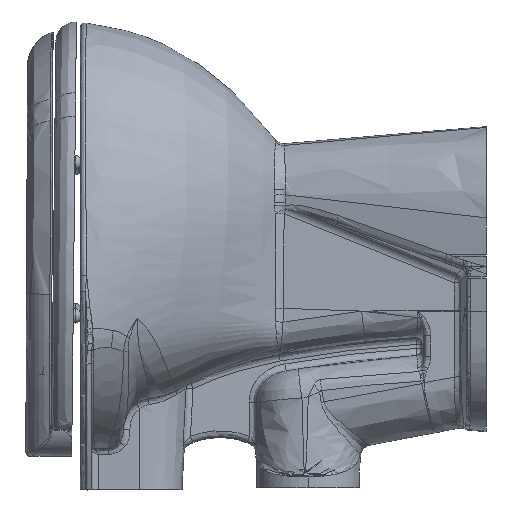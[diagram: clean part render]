
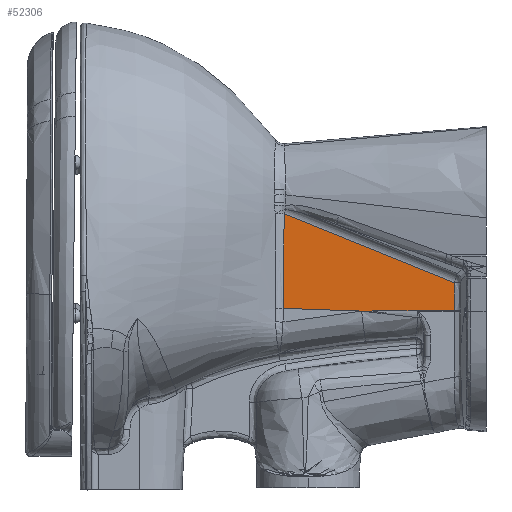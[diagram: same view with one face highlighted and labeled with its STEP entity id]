
A CAD part, left-side view. The second image highlights one B-rep face of the part: STEP entity #52306.
In plain terms, the highlighted planar face has unit normal (-0.999, 0.035, 0.001).
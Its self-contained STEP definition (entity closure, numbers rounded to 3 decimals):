
#68 = ORIENTED_EDGE ( 'NONE', *, *, #14129, .T. ) ;
#630 = CARTESIAN_POINT ( 'NONE',  ( -20.856, -133.012, -51.299 ) ) ;
#661 = ORIENTED_EDGE ( 'NONE', *, *, #41050, .T. ) ;
#817 = CARTESIAN_POINT ( 'NONE',  ( -23.709, -214.616, -54.149 ) ) ;
#2172 = CARTESIAN_POINT ( 'NONE',  ( -23.709, -214.616, -54.149 ) ) ;
#2265 = AXIS2_PLACEMENT_3D ( 'NONE', #630, #40165, #10241 ) ;
#2710 = VERTEX_POINT ( 'NONE', #9644 ) ;
#2777 = VERTEX_POINT ( 'NONE', #26452 ) ;
#6295 = CARTESIAN_POINT ( 'NONE',  ( -23.709, -214.618, -54.149 ) ) ;
#6410 = EDGE_CURVE ( 'NONE', #41692, #2710, #23934, .T. ) ;
#6729 = CARTESIAN_POINT ( 'NONE',  ( -20.976, -138.085, -3.634 ) ) ;
#7578 = CARTESIAN_POINT ( 'NONE',  ( -20.977, -138.072, -4.99 ) ) ;
#8688 = FACE_OUTER_BOUND ( 'NONE', #52009, .T. ) ;
#9318 = CARTESIAN_POINT ( 'NONE',  ( -26.888, -305.673, -53.289 ) ) ;
#9644 = CARTESIAN_POINT ( 'NONE',  ( -21.013, -137.491, -51.456 ) ) ;
#9823 = PLANE ( 'NONE',  #2265 ) ;
#9873 = EDGE_CURVE ( 'NONE', #12681, #42926, #12323, .T. ) ;
#10241 = DIRECTION ( 'NONE',  ( -0.035, -0.999, 0. ) ) ;
#11725 = CARTESIAN_POINT ( 'NONE',  ( -20.977, -138.072, -4.98 ) ) ;
#11948 = CARTESIAN_POINT ( 'NONE',  ( -20.977, -138.075, -4.651 ) ) ;
#12323 = B_SPLINE_CURVE_WITH_KNOTS ( 'NONE', 3,
 ( #51908, #61544, #2172, #56736 ),
 .UNSPECIFIED., .F., .F.,
 ( 4, 4 ),
 ( 0., 0. ),
 .UNSPECIFIED. ) ;
#12365 = CARTESIAN_POINT ( 'NONE',  ( -20.977, -138.072, -4.971 ) ) ;
#12681 = VERTEX_POINT ( 'NONE', #31178 ) ;
#13029 = ORIENTED_EDGE ( 'NONE', *, *, #28603, .T. ) ;
#13275 = CARTESIAN_POINT ( 'NONE',  ( -21.913, -166.062, 30.252 ) ) ;
#14129 = EDGE_CURVE ( 'NONE', #55704, #41692, #51451, .T. ) ;
#17389 = CARTESIAN_POINT ( 'NONE',  ( -20.968, -138.171, 5.419 ) ) ;
#19329 = EDGE_CURVE ( 'NONE', #21438, #55704, #22935, .T. ) ;
#20049 = CARTESIAN_POINT ( 'NONE',  ( -20.938, -138.421, 38.474 ) ) ;
#21438 = VERTEX_POINT ( 'NONE', #9318 ) ;
#21985 = CARTESIAN_POINT ( 'NONE',  ( -20.973, -138.123, 0.343 ) ) ;
#22196 = CARTESIAN_POINT ( 'NONE',  ( -21.013, -137.491, -51.456 ) ) ;
#22639 = CARTESIAN_POINT ( 'NONE',  ( -26.888, -305.673, -53.289 ) ) ;
#22935 = B_SPLINE_CURVE_WITH_KNOTS ( 'NONE', 3,
 ( #64261, #64479, #34573, #45031 ),
 .UNSPECIFIED., .F., .F.,
 ( 4, 4 ),
 ( 0., 0.027 ),
 .UNSPECIFIED. ) ;
#23934 = B_SPLINE_CURVE_WITH_KNOTS ( 'NONE', 3,
 ( #49722, #20049, #36840, #57313, #17389, #21985, #42274, #6729, #41649, #11948, #61911, #32016, #37054, #12365, #11725, #37468, #7578, #51629, #42481, #22196 ),
 .UNSPECIFIED., .F., .F.,
 ( 4, 1, 1, 1, 1, 1, 1, 1, 1, 1, 1, 1, 1, 2, 2, 4 ),
 ( 0., 0.25, 0.375, 0.437, 0.469, 0.484, 0.492, 0.496, 0.498, 0.499, 0.5, 0.5, 0.5, 0.5, 0.5, 1. ),
 .UNSPECIFIED. ) ;
#26452 = CARTESIAN_POINT ( 'NONE',  ( -23.709, -214.622, -54.149 ) ) ;
#26551 = EDGE_CURVE ( 'NONE', #2777, #21438, #60674, .T. ) ;
#27477 = CARTESIAN_POINT ( 'NONE',  ( -24.239, -229.794, -53.777 ) ) ;
#28603 = EDGE_CURVE ( 'NONE', #2710, #12681, #45700, .T. ) ;
#30906 = ORIENTED_EDGE ( 'NONE', *, *, #26551, .T. ) ;
#31178 = CARTESIAN_POINT ( 'NONE',  ( -23.709, -214.614, -54.149 ) ) ;
#32016 = CARTESIAN_POINT ( 'NONE',  ( -20.977, -138.073, -4.907 ) ) ;
#32254 = CARTESIAN_POINT ( 'NONE',  ( -23.709, -214.622, -54.149 ) ) ;
#34573 = CARTESIAN_POINT ( 'NONE',  ( -26.866, -305.673, -35.358 ) ) ;
#36840 = CARTESIAN_POINT ( 'NONE',  ( -20.946, -138.385, 30.419 ) ) ;
#37054 = CARTESIAN_POINT ( 'NONE',  ( -20.977, -138.072, -4.949 ) ) ;
#37468 = CARTESIAN_POINT ( 'NONE',  ( -20.977, -138.072, -4.986 ) ) ;
#40165 = DIRECTION ( 'NONE',  ( -0.999, 0.035, 0.001 ) ) ;
#41050 = EDGE_CURVE ( 'NONE', #42926, #2777, #46974, .T. ) ;
#41649 = CARTESIAN_POINT ( 'NONE',  ( -20.977, -138.078, -4.311 ) ) ;
#41692 = VERTEX_POINT ( 'NONE', #60552 ) ;
#42274 = CARTESIAN_POINT ( 'NONE',  ( -20.975, -138.098, -2.292 ) ) ;
#42481 = CARTESIAN_POINT ( 'NONE',  ( -21.001, -137.74, -34.657 ) ) ;
#42511 = CARTESIAN_POINT ( 'NONE',  ( -25.828, -275.32, -53.239 ) ) ;
#42926 = VERTEX_POINT ( 'NONE', #61174 ) ;
#45031 = CARTESIAN_POINT ( 'NONE',  ( -26.856, -305.674, -26.392 ) ) ;
#45700 = LINE ( 'NONE', #46412, #46445 ) ;
#46412 = CARTESIAN_POINT ( 'NONE',  ( -20.856, -133.012, -51.299 ) ) ;
#46445 = VECTOR ( 'NONE', #57488, 1000. ) ;
#46974 = B_SPLINE_CURVE_WITH_KNOTS ( 'NONE', 3,
 ( #817, #6295, #52460, #57514 ),
 .UNSPECIFIED., .F., .F.,
 ( 4, 4 ),
 ( 0.054, 0.054 ),
 .UNSPECIFIED. ) ;
#48838 = DIRECTION ( 'NONE',  ( 0.033, 0.926, 0.376 ) ) ;
#49722 = CARTESIAN_POINT ( 'NONE',  ( -20.934, -138.413, 41.47 ) ) ;
#51171 = ORIENTED_EDGE ( 'NONE', *, *, #6410, .T. ) ;
#51451 = LINE ( 'NONE', #13275, #54601 ) ;
#51629 = CARTESIAN_POINT ( 'NONE',  ( -20.989, -137.933, -19.17 ) ) ;
#51813 = CARTESIAN_POINT ( 'NONE',  ( -26.856, -305.674, -26.392 ) ) ;
#51908 = CARTESIAN_POINT ( 'NONE',  ( -23.709, -214.614, -54.149 ) ) ;
#52009 = EDGE_LOOP ( 'NONE', ( #68, #51171, #13029, #56800, #661, #30906, #52520 ) ) ;
#52306 = ADVANCED_FACE ( 'NONE', ( #8688 ), #9823, .T. ) ;
#52460 = CARTESIAN_POINT ( 'NONE',  ( -23.709, -214.62, -54.149 ) ) ;
#52503 = CARTESIAN_POINT ( 'NONE',  ( -26.358, -290.497, -53.203 ) ) ;
#52520 = ORIENTED_EDGE ( 'NONE', *, *, #19329, .T. ) ;
#54601 = VECTOR ( 'NONE', #48838, 1000. ) ;
#55704 = VERTEX_POINT ( 'NONE', #51813 ) ;
#56736 = CARTESIAN_POINT ( 'NONE',  ( -23.709, -214.616, -54.149 ) ) ;
#56800 = ORIENTED_EDGE ( 'NONE', *, *, #9873, .T. ) ;
#57313 = CARTESIAN_POINT ( 'NONE',  ( -20.96, -138.257, 14.791 ) ) ;
#57488 = DIRECTION ( 'NONE',  ( -0.035, -0.999, -0.035 ) ) ;
#57514 = CARTESIAN_POINT ( 'NONE',  ( -23.709, -214.622, -54.149 ) ) ;
#60552 = CARTESIAN_POINT ( 'NONE',  ( -20.934, -138.413, 41.47 ) ) ;
#60674 = B_SPLINE_CURVE_WITH_KNOTS ( 'NONE', 3,
 ( #32254, #27477, #62355, #42511, #52503, #22639 ),
 .UNSPECIFIED., .F., .F.,
 ( 4, 2, 4 ),
 ( 0., 0.045, 0.091 ),
 .UNSPECIFIED. ) ;
#61174 = CARTESIAN_POINT ( 'NONE',  ( -23.709, -214.616, -54.149 ) ) ;
#61544 = CARTESIAN_POINT ( 'NONE',  ( -23.709, -214.615, -54.149 ) ) ;
#61911 = CARTESIAN_POINT ( 'NONE',  ( -20.977, -138.073, -4.821 ) ) ;
#62355 = CARTESIAN_POINT ( 'NONE',  ( -24.768, -244.968, -53.526 ) ) ;
#64261 = CARTESIAN_POINT ( 'NONE',  ( -26.888, -305.673, -53.289 ) ) ;
#64479 = CARTESIAN_POINT ( 'NONE',  ( -26.877, -305.673, -44.323 ) ) ;
